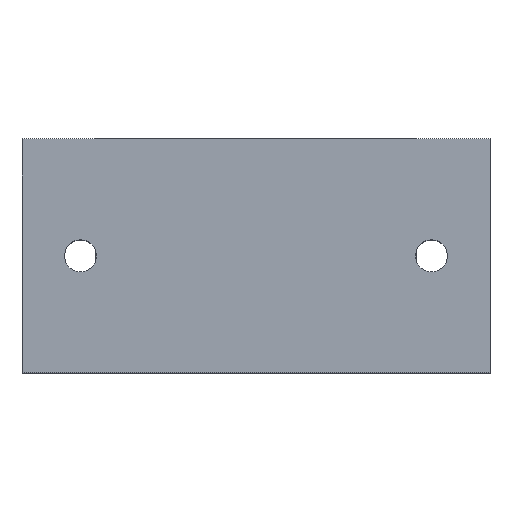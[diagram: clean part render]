
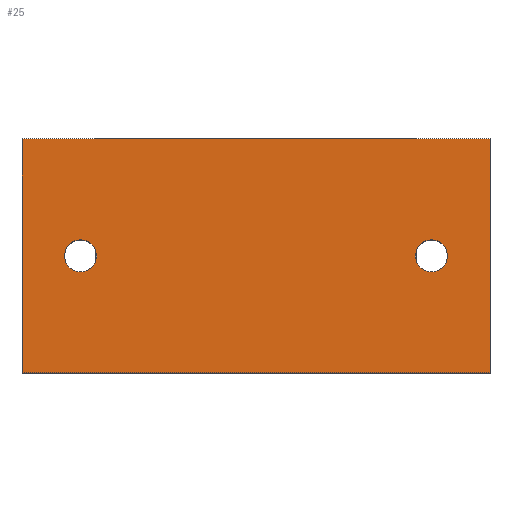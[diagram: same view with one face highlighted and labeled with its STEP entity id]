
A CAD part, top view. The second image highlights one B-rep face of the part: STEP entity #25.
In plain terms, the highlighted planar face has unit normal (0, 0, 1).
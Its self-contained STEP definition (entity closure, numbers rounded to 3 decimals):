
#1 = VERTEX_POINT ( 'NONE', #2965 ) ;
#25 = ADVANCED_FACE ( 'NONE', ( #17427, #10204, #14063 ), #12055, .T. ) ;
#100 = ORIENTED_EDGE ( 'NONE', *, *, #2589, .T. ) ;
#1635 = CARTESIAN_POINT ( 'NONE',  ( 60., 0., 21. ) ) ;
#1690 = CARTESIAN_POINT ( 'NONE',  ( -60., 0., 21. ) ) ;
#1959 = DIRECTION ( 'NONE',  ( 0., 0., 1. ) ) ;
#2037 = CARTESIAN_POINT ( 'NONE',  ( -54.5, 0., 21. ) ) ;
#2253 = VERTEX_POINT ( 'NONE', #6031 ) ;
#2588 = EDGE_CURVE ( 'NONE', #7867, #18008, #16452, .T. ) ;
#2589 = EDGE_CURVE ( 'NONE', #3541, #17901, #8343, .T. ) ;
#2965 = CARTESIAN_POINT ( 'NONE',  ( 54.5, 0., 21. ) ) ;
#3075 = DIRECTION ( 'NONE',  ( -1., 0., 0. ) ) ;
#3127 = DIRECTION ( 'NONE',  ( -1., 0., 0. ) ) ;
#3167 = CARTESIAN_POINT ( 'NONE',  ( 60., 0., 21. ) ) ;
#3273 = ORIENTED_EDGE ( 'NONE', *, *, #4952, .F. ) ;
#3395 = CARTESIAN_POINT ( 'NONE',  ( -80., 40., 21. ) ) ;
#3541 = VERTEX_POINT ( 'NONE', #2037 ) ;
#4263 = CARTESIAN_POINT ( 'NONE',  ( -80., -40., 21. ) ) ;
#4490 = CARTESIAN_POINT ( 'NONE',  ( -80., -40., 21. ) ) ;
#4608 = DIRECTION ( 'NONE',  ( -1., 0., 0. ) ) ;
#4934 = VECTOR ( 'NONE', #11694, 1000. ) ;
#4952 = EDGE_CURVE ( 'NONE', #18008, #13380, #15726, .T. ) ;
#5000 = EDGE_CURVE ( 'NONE', #1, #8608, #10995, .T. ) ;
#5120 = AXIS2_PLACEMENT_3D ( 'NONE', #3395, #1959, #14996 ) ;
#6031 = CARTESIAN_POINT ( 'NONE',  ( 80., 40., 21. ) ) ;
#6275 = ORIENTED_EDGE ( 'NONE', *, *, #5000, .T. ) ;
#6695 = CARTESIAN_POINT ( 'NONE',  ( 80., -40., 21. ) ) ;
#6738 = AXIS2_PLACEMENT_3D ( 'NONE', #1635, #11705, #3075 ) ;
#6897 = DIRECTION ( 'NONE',  ( 1., 0., 0. ) ) ;
#6998 = DIRECTION ( 'NONE',  ( 0., 0., -1. ) ) ;
#7094 = CIRCLE ( 'NONE', #10181, 5.5 ) ;
#7485 = AXIS2_PLACEMENT_3D ( 'NONE', #15620, #6998, #17087 ) ;
#7522 = VECTOR ( 'NONE', #6897, 1000. ) ;
#7737 = ORIENTED_EDGE ( 'NONE', *, *, #15578, .F. ) ;
#7819 = CARTESIAN_POINT ( 'NONE',  ( 65.5, 0., 21. ) ) ;
#7867 = VERTEX_POINT ( 'NONE', #11057 ) ;
#8051 = VECTOR ( 'NONE', #12920, 1000. ) ;
#8136 = DIRECTION ( 'NONE',  ( 0., -1., 0. ) ) ;
#8332 = CARTESIAN_POINT ( 'NONE',  ( -65.5, 0., 21. ) ) ;
#8343 = CIRCLE ( 'NONE', #18102, 5.5 ) ;
#8608 = VERTEX_POINT ( 'NONE', #7819 ) ;
#9593 = EDGE_CURVE ( 'NONE', #8608, #1, #7094, .T. ) ;
#9704 = VECTOR ( 'NONE', #8136, 1000. ) ;
#10142 = LINE ( 'NONE', #6695, #9704 ) ;
#10181 = AXIS2_PLACEMENT_3D ( 'NONE', #3167, #13266, #4608 ) ;
#10204 = FACE_BOUND ( 'NONE', #16060, .T. ) ;
#10260 = EDGE_CURVE ( 'NONE', #13380, #2253, #11372, .T. ) ;
#10289 = ORIENTED_EDGE ( 'NONE', *, *, #10260, .F. ) ;
#10995 = CIRCLE ( 'NONE', #6738, 5.5 ) ;
#11057 = CARTESIAN_POINT ( 'NONE',  ( 80., -40., 21. ) ) ;
#11180 = CARTESIAN_POINT ( 'NONE',  ( -80., 40., 21. ) ) ;
#11372 = LINE ( 'NONE', #11180, #7522 ) ;
#11694 = DIRECTION ( 'NONE',  ( -1., 0., 0. ) ) ;
#11705 = DIRECTION ( 'NONE',  ( 0., 0., -1. ) ) ;
#11756 = DIRECTION ( 'NONE',  ( 0., 0., -1. ) ) ;
#12055 = PLANE ( 'NONE',  #5120 ) ;
#12443 = ORIENTED_EDGE ( 'NONE', *, *, #9593, .T. ) ;
#12575 = EDGE_LOOP ( 'NONE', ( #7737, #10289, #3273, #14229 ) ) ;
#12920 = DIRECTION ( 'NONE',  ( 0., 1., 0. ) ) ;
#13266 = DIRECTION ( 'NONE',  ( 0., 0., -1. ) ) ;
#13365 = EDGE_LOOP ( 'NONE', ( #6275, #12443 ) ) ;
#13380 = VERTEX_POINT ( 'NONE', #13780 ) ;
#13716 = CIRCLE ( 'NONE', #7485, 5.5 ) ;
#13780 = CARTESIAN_POINT ( 'NONE',  ( -80., 40., 21. ) ) ;
#14063 = FACE_OUTER_BOUND ( 'NONE', #12575, .T. ) ;
#14229 = ORIENTED_EDGE ( 'NONE', *, *, #2588, .F. ) ;
#14314 = CARTESIAN_POINT ( 'NONE',  ( -80., -40., 21. ) ) ;
#14996 = DIRECTION ( 'NONE',  ( 1., 0., 0. ) ) ;
#15578 = EDGE_CURVE ( 'NONE', #2253, #7867, #10142, .T. ) ;
#15620 = CARTESIAN_POINT ( 'NONE',  ( -60., 0., 21. ) ) ;
#15726 = LINE ( 'NONE', #14314, #8051 ) ;
#16060 = EDGE_LOOP ( 'NONE', ( #16286, #100 ) ) ;
#16286 = ORIENTED_EDGE ( 'NONE', *, *, #18460, .T. ) ;
#16452 = LINE ( 'NONE', #4490, #4934 ) ;
#17087 = DIRECTION ( 'NONE',  ( -1., 0., 0. ) ) ;
#17427 = FACE_BOUND ( 'NONE', #13365, .T. ) ;
#17901 = VERTEX_POINT ( 'NONE', #8332 ) ;
#18008 = VERTEX_POINT ( 'NONE', #4263 ) ;
#18102 = AXIS2_PLACEMENT_3D ( 'NONE', #1690, #11756, #3127 ) ;
#18460 = EDGE_CURVE ( 'NONE', #17901, #3541, #13716, .T. ) ;
